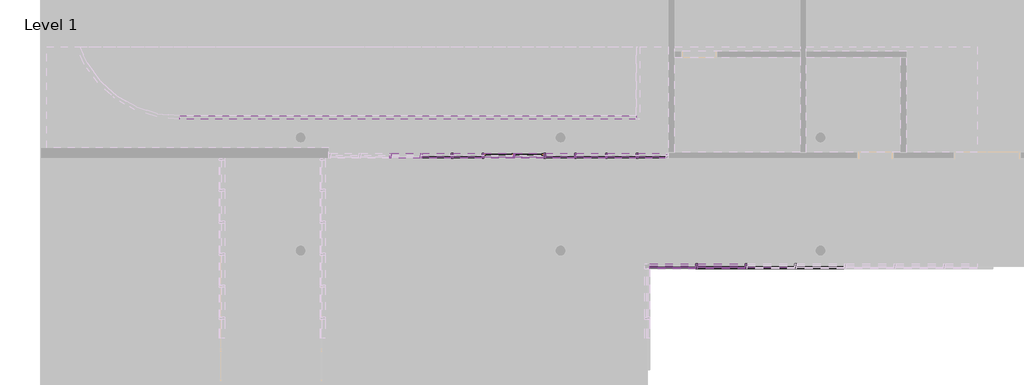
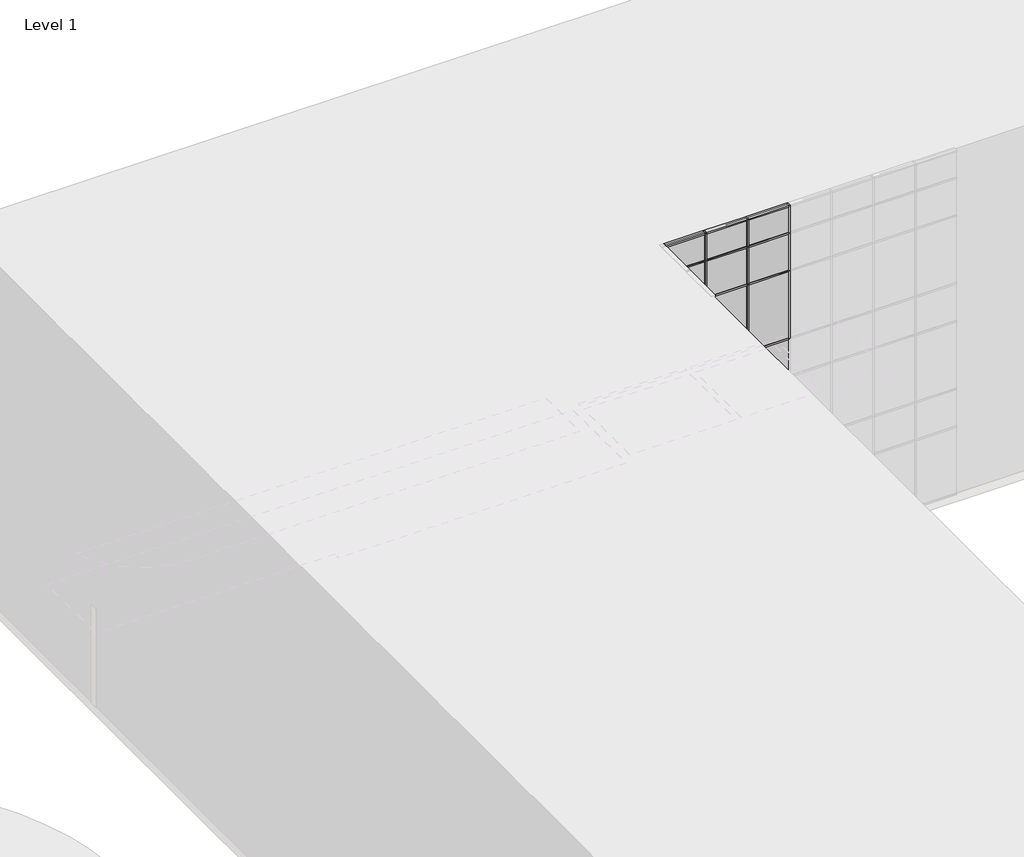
# One storey, part 14 of 27: 91 members, 34 plates, 1 door, 1 wall.
"""IFC4 building model written with IfcOpenShell, lengths in millimetres."""

from ifc_helpers import new_model, si_unit, frame, origin, place, context, project, spatial, polyline, outline, extrude, transform, mapped, element, save
from components import m_door_curtain_wall_double_storefront_m_door_curtain_wall_1244dbcd, rectangular_mullion_50mm_x_150mm_13593f2b, rectangular_mullion_50mm_x_150mm_0e57614d, rectangular_mullion_50mm_x_150mm_d8a63713, rectangular_mullion_50mm_x_150mm_a5e1a8f4, rectangular_mullion_50mm_x_150mm_caa46ae3, rectangular_mullion_50mm_x_150mm_228869d4, rectangular_mullion_50mm_x_150mm_eff96389, rectangular_mullion_50mm_x_150mm_a28728bf, rectangular_mullion_50mm_x_150mm_1cdaa0f1, rectangular_mullion_50mm_x_150mm_5a36e067, rectangular_mullion_50mm_x_150mm_73e7bd4c, rectangular_mullion_50mm_x_150mm_4d4922e7, rectangular_mullion_50mm_x_150mm_da00b109, rectangular_mullion_50mm_x_150mm_bbc1c4ea, rectangular_mullion_50mm_x_150mm_36202a7c, rectangular_mullion_50mm_x_150mm_84717ec5, system_panel_glazed_dff54dbd, system_panel_glazed_4aef0c34, system_panel_glazed_3f9df8c7, system_panel_glazed_45ebec01, system_panel_glazed_6032f2be, system_panel_glazed_0db3b356, system_panel_glazed_cd6fe77c, system_panel_glazed_231014a1, system_panel_solid_c5c66014, system_panel_solid_87c6c2f1, system_panel_solid_b23a9ee6, system_panel_solid_e0f9033a

model = new_model("IFC4")

# Units and contexts
model_context = context("Model", 3, world=origin())
ifc_project = project(units=[si_unit("LENGTHUNIT", "METRE", prefix="MILLI")], contexts=[model_context])

# Site, building, storey
site = spatial("IfcSite", under=ifc_project)
building = spatial("IfcBuilding", under=site)
storey = spatial("IfcBuildingStorey", under=building, Name="Level 1", Elevation=0.0)

# Door
placement = place(None, origin())
m_door_curtain_wall_double_storefront_m_door_curtain_wall_shape = m_door_curtain_wall_double_storefront_m_door_curtain_wall_1244dbcd(model_context)
element("IfcDoor", 1, ObjectType="M_Door-Curtain-Wall-Double-Storefront : M_Door-Curtain-Wall-Double-Storefront", at=placement, inside=storey, context=model_context, shape_type="MappedRepresentation", body=[
    mapped(m_door_curtain_wall_double_storefront_m_door_curtain_wall_shape, transform((3603.7102833, 22595.5799804, 0.0), x_axis=(-1.0, 0.0, 0.0), y_axis=(0.0, -1.0, 0.0), z_axis=(0.0, 0.0, 1.0))),
])

# Members
rectangular_mullion_50mm_x_150mm_shape = rectangular_mullion_50mm_x_150mm_13593f2b(model_context)
element("IfcMember", 2, ObjectType="Rectangular Mullion : 50mm x 150mm", at=placement, inside=storey, context=model_context, shape_type="MappedRepresentation", body=[
    mapped(rectangular_mullion_50mm_x_150mm_shape, transform((7997.5010724, 22595.5799804, 0.0), x_axis=(0.0, 0.0, -1.0), y_axis=(0.0, 1.0, 0.0), z_axis=(1.0, 0.0, 0.0))),
])
element("IfcMember", 3, ObjectType="Rectangular Mullion : 50mm x 150mm", at=placement, inside=storey, context=model_context, shape_type="MappedRepresentation", body=[
    mapped(rectangular_mullion_50mm_x_150mm_shape, transform((7183.7429143, 22595.5799804, 3550.0), x_axis=(0.0, 0.0, 1.0), y_axis=(0.0, 1.0, 0.0), z_axis=(-1.0, 0.0, 0.0))),
])
rectangular_mullion_50mm_x_150mm_2_shape = rectangular_mullion_50mm_x_150mm_0e57614d(model_context)
element("IfcMember", 4, ObjectType="Rectangular Mullion : 50mm x 150mm", at=placement, inside=storey, context=model_context, shape_type="MappedRepresentation", body=[
    mapped(rectangular_mullion_50mm_x_150mm_2_shape, transform((6294.9847566, 22595.5799804, 3550.0), x_axis=(0.0, 0.0, 1.0), y_axis=(0.0, 1.0, 0.0), z_axis=(-1.0, 0.0, 0.0))),
])
element("IfcMember", 5, ObjectType="Rectangular Mullion : 50mm x 150mm", at=placement, inside=storey, context=model_context, shape_type="MappedRepresentation", body=[
    mapped(rectangular_mullion_50mm_x_150mm_2_shape, transform((5406.2265988, 22595.5799804, 3550.0), x_axis=(0.0, 0.0, 1.0), y_axis=(0.0, 1.0, 0.0), z_axis=(-1.0, 0.0, 0.0))),
])
element("IfcMember", 6, ObjectType="Rectangular Mullion : 50mm x 150mm", at=placement, inside=storey, context=model_context, shape_type="MappedRepresentation", body=[
    mapped(rectangular_mullion_50mm_x_150mm_2_shape, transform((4517.4684411, 22595.5799804, 3550.0), x_axis=(0.0, 0.0, 1.0), y_axis=(0.0, 1.0, 0.0), z_axis=(-1.0, 0.0, 0.0))),
])
element("IfcMember", 7, ObjectType="Rectangular Mullion : 50mm x 150mm", at=placement, inside=storey, context=model_context, shape_type="MappedRepresentation", body=[
    mapped(rectangular_mullion_50mm_x_150mm_2_shape, transform((3628.7102833, 22595.5799804, 3550.0), x_axis=(0.0, 0.0, 1.0), y_axis=(0.0, 1.0, 0.0), z_axis=(-1.0, 0.0, 0.0))),
])
element("IfcMember", 8, ObjectType="Rectangular Mullion : 50mm x 150mm", at=placement, inside=storey, context=model_context, shape_type="MappedRepresentation", body=[
    mapped(rectangular_mullion_50mm_x_150mm_2_shape, transform((2739.9521255, 22595.5799804, 3550.0), x_axis=(0.0, 0.0, 1.0), y_axis=(0.0, 1.0, 0.0), z_axis=(-1.0, 0.0, 0.0))),
])
element("IfcMember", 9, ObjectType="Rectangular Mullion : 50mm x 150mm", at=placement, inside=storey, context=model_context, shape_type="MappedRepresentation", body=[
    mapped(rectangular_mullion_50mm_x_150mm_2_shape, transform((1851.1939678, 22595.5799804, 3550.0), x_axis=(0.0, 0.0, 1.0), y_axis=(0.0, 1.0, 0.0), z_axis=(-1.0, 0.0, 0.0))),
])
element("IfcMember", 10, ObjectType="Rectangular Mullion : 50mm x 150mm", at=placement, inside=storey, context=model_context, shape_type="MappedRepresentation", body=[
    mapped(rectangular_mullion_50mm_x_150mm_2_shape, transform((7133.7429143, 22595.5799804, 0.0), x_axis=(0.0, 0.0, -1.0), y_axis=(0.0, 1.0, 0.0), z_axis=(1.0, 0.0, 0.0))),
])
element("IfcMember", 11, ObjectType="Rectangular Mullion : 50mm x 150mm", at=placement, inside=storey, context=model_context, shape_type="MappedRepresentation", body=[
    mapped(rectangular_mullion_50mm_x_150mm_2_shape, transform((6244.9847566, 22595.5799804, 0.0), x_axis=(0.0, 0.0, -1.0), y_axis=(0.0, 1.0, 0.0), z_axis=(1.0, 0.0, 0.0))),
])
element("IfcMember", 12, ObjectType="Rectangular Mullion : 50mm x 150mm", at=placement, inside=storey, context=model_context, shape_type="MappedRepresentation", body=[
    mapped(rectangular_mullion_50mm_x_150mm_2_shape, transform((5356.2265988, 22595.5799804, 0.0), x_axis=(0.0, 0.0, -1.0), y_axis=(0.0, 1.0, 0.0), z_axis=(1.0, 0.0, 0.0))),
])
element("IfcMember", 13, ObjectType="Rectangular Mullion : 50mm x 150mm", at=placement, inside=storey, context=model_context, shape_type="MappedRepresentation", body=[
    mapped(rectangular_mullion_50mm_x_150mm_2_shape, transform((2689.9521255, 22595.5799804, 0.0), x_axis=(0.0, 0.0, -1.0), y_axis=(0.0, 1.0, 0.0), z_axis=(1.0, 0.0, 0.0))),
])
element("IfcMember", 14, ObjectType="Rectangular Mullion : 50mm x 150mm", at=placement, inside=storey, context=model_context, shape_type="MappedRepresentation", body=[
    mapped(rectangular_mullion_50mm_x_150mm_2_shape, transform((1801.1939678, 22595.5799804, 0.0), x_axis=(0.0, 0.0, -1.0), y_axis=(0.0, 1.0, 0.0), z_axis=(1.0, 0.0, 0.0))),
])
rectangular_mullion_50mm_x_150mm_3_shape = rectangular_mullion_50mm_x_150mm_d8a63713(model_context)
element("IfcMember", 15, ObjectType="Rectangular Mullion : 50mm x 150mm", at=placement, inside=storey, context=model_context, shape_type="MappedRepresentation", body=[
    mapped(rectangular_mullion_50mm_x_150mm_3_shape, transform((7158.7429143, 22595.5799804, 0.0), x_axis=(-1.0, 0.0, 0.0), y_axis=(0.0, 1.0, 0.0), z_axis=(0.0, 0.0, -1.0))),
])
element("IfcMember", 16, ObjectType="Rectangular Mullion : 50mm x 150mm", at=placement, inside=storey, context=model_context, shape_type="MappedRepresentation", body=[
    mapped(rectangular_mullion_50mm_x_150mm_3_shape, transform((6269.9847566, 22595.5799804, 0.0), x_axis=(-1.0, 0.0, 0.0), y_axis=(0.0, 1.0, 0.0), z_axis=(0.0, 0.0, -1.0))),
])
element("IfcMember", 17, ObjectType="Rectangular Mullion : 50mm x 150mm", at=placement, inside=storey, context=model_context, shape_type="MappedRepresentation", body=[
    mapped(rectangular_mullion_50mm_x_150mm_3_shape, transform((5381.2265988, 22595.5799804, 0.0), x_axis=(-1.0, 0.0, 0.0), y_axis=(0.0, 1.0, 0.0), z_axis=(0.0, 0.0, -1.0))),
])
element("IfcMember", 18, ObjectType="Rectangular Mullion : 50mm x 150mm", at=placement, inside=storey, context=model_context, shape_type="MappedRepresentation", body=[
    mapped(rectangular_mullion_50mm_x_150mm_3_shape, transform((4492.4684411, 22595.5799804, 0.0), x_axis=(-1.0, 0.0, 0.0), y_axis=(0.0, 1.0, 0.0), z_axis=(0.0, 0.0, -1.0))),
])
element("IfcMember", 19, ObjectType="Rectangular Mullion : 50mm x 150mm", at=placement, inside=storey, context=model_context, shape_type="MappedRepresentation", body=[
    mapped(rectangular_mullion_50mm_x_150mm_3_shape, transform((2714.9521255, 22595.5799804, 0.0), x_axis=(-1.0, 0.0, 0.0), y_axis=(0.0, 1.0, 0.0), z_axis=(0.0, 0.0, -1.0))),
])
element("IfcMember", 20, ObjectType="Rectangular Mullion : 50mm x 150mm", at=placement, inside=storey, context=model_context, shape_type="MappedRepresentation", body=[
    mapped(rectangular_mullion_50mm_x_150mm_3_shape, transform((1826.1939678, 22595.5799804, 0.0), x_axis=(-1.0, 0.0, 0.0), y_axis=(0.0, 1.0, 0.0), z_axis=(0.0, 0.0, -1.0))),
])
rectangular_mullion_50mm_x_150mm_4_shape = rectangular_mullion_50mm_x_150mm_a5e1a8f4(model_context)
element("IfcMember", 21, ObjectType="Rectangular Mullion : 50mm x 150mm", at=placement, inside=storey, context=model_context, shape_type="MappedRepresentation", body=[
    mapped(rectangular_mullion_50mm_x_150mm_4_shape, transform((7183.7429143, 22595.5799804, 2235.0), x_axis=(0.0, 0.0, 1.0), y_axis=(0.0, 1.0, 0.0), z_axis=(-1.0, 0.0, 0.0))),
])
element("IfcMember", 22, ObjectType="Rectangular Mullion : 50mm x 150mm", at=placement, inside=storey, context=model_context, shape_type="MappedRepresentation", body=[
    mapped(rectangular_mullion_50mm_x_150mm_4_shape, transform((7183.7429143, 22595.5799804, 2135.0), x_axis=(0.0, 0.0, 1.0), y_axis=(0.0, 1.0, 0.0), z_axis=(-1.0, 0.0, 0.0))),
])
rectangular_mullion_50mm_x_150mm_5_shape = rectangular_mullion_50mm_x_150mm_caa46ae3(model_context)
element("IfcMember", 23, ObjectType="Rectangular Mullion : 50mm x 150mm", at=placement, inside=storey, context=model_context, shape_type="MappedRepresentation", body=[
    mapped(rectangular_mullion_50mm_x_150mm_5_shape, transform((6294.9847566, 22595.5799804, 2235.0), x_axis=(0.0, 0.0, 1.0), y_axis=(0.0, 1.0, 0.0), z_axis=(-1.0, 0.0, 0.0))),
])
element("IfcMember", 24, ObjectType="Rectangular Mullion : 50mm x 150mm", at=placement, inside=storey, context=model_context, shape_type="MappedRepresentation", body=[
    mapped(rectangular_mullion_50mm_x_150mm_5_shape, transform((5406.2265988, 22595.5799804, 2235.0), x_axis=(0.0, 0.0, 1.0), y_axis=(0.0, 1.0, 0.0), z_axis=(-1.0, 0.0, 0.0))),
])
element("IfcMember", 25, ObjectType="Rectangular Mullion : 50mm x 150mm", at=placement, inside=storey, context=model_context, shape_type="MappedRepresentation", body=[
    mapped(rectangular_mullion_50mm_x_150mm_5_shape, transform((4517.4684411, 22595.5799804, 2235.0), x_axis=(0.0, 0.0, 1.0), y_axis=(0.0, 1.0, 0.0), z_axis=(-1.0, 0.0, 0.0))),
])
element("IfcMember", 26, ObjectType="Rectangular Mullion : 50mm x 150mm", at=placement, inside=storey, context=model_context, shape_type="MappedRepresentation", body=[
    mapped(rectangular_mullion_50mm_x_150mm_5_shape, transform((1851.1939678, 22595.5799804, 2235.0), x_axis=(0.0, 0.0, 1.0), y_axis=(0.0, 1.0, 0.0), z_axis=(-1.0, 0.0, 0.0))),
])
element("IfcMember", 27, ObjectType="Rectangular Mullion : 50mm x 150mm", at=placement, inside=storey, context=model_context, shape_type="MappedRepresentation", body=[
    mapped(rectangular_mullion_50mm_x_150mm_5_shape, transform((6294.9847566, 22595.5799804, 2135.0), x_axis=(0.0, 0.0, 1.0), y_axis=(0.0, 1.0, 0.0), z_axis=(-1.0, 0.0, 0.0))),
])
element("IfcMember", 28, ObjectType="Rectangular Mullion : 50mm x 150mm", at=placement, inside=storey, context=model_context, shape_type="MappedRepresentation", body=[
    mapped(rectangular_mullion_50mm_x_150mm_5_shape, transform((5406.2265988, 22595.5799804, 2135.0), x_axis=(0.0, 0.0, 1.0), y_axis=(0.0, 1.0, 0.0), z_axis=(-1.0, 0.0, 0.0))),
])
element("IfcMember", 29, ObjectType="Rectangular Mullion : 50mm x 150mm", at=placement, inside=storey, context=model_context, shape_type="MappedRepresentation", body=[
    mapped(rectangular_mullion_50mm_x_150mm_5_shape, transform((4517.4684411, 22595.5799804, 2135.0), x_axis=(0.0, 0.0, 1.0), y_axis=(0.0, 1.0, 0.0), z_axis=(-1.0, 0.0, 0.0))),
])
element("IfcMember", 30, ObjectType="Rectangular Mullion : 50mm x 150mm", at=placement, inside=storey, context=model_context, shape_type="MappedRepresentation", body=[
    mapped(rectangular_mullion_50mm_x_150mm_5_shape, transform((3628.7102833, 22595.5799804, 2135.0), x_axis=(0.0, 0.0, 1.0), y_axis=(0.0, 1.0, 0.0), z_axis=(-1.0, 0.0, 0.0))),
])
element("IfcMember", 31, ObjectType="Rectangular Mullion : 50mm x 150mm", at=placement, inside=storey, context=model_context, shape_type="MappedRepresentation", body=[
    mapped(rectangular_mullion_50mm_x_150mm_5_shape, transform((2739.9521255, 22595.5799804, 2135.0), x_axis=(0.0, 0.0, 1.0), y_axis=(0.0, 1.0, 0.0), z_axis=(-1.0, 0.0, 0.0))),
])
element("IfcMember", 32, ObjectType="Rectangular Mullion : 50mm x 150mm", at=placement, inside=storey, context=model_context, shape_type="MappedRepresentation", body=[
    mapped(rectangular_mullion_50mm_x_150mm_5_shape, transform((1851.1939678, 22595.5799804, 2135.0), x_axis=(0.0, 0.0, 1.0), y_axis=(0.0, 1.0, 0.0), z_axis=(-1.0, 0.0, 0.0))),
])
element("IfcMember", 33, ObjectType="Rectangular Mullion : 50mm x 150mm", at=placement, inside=storey, context=model_context, shape_type="MappedRepresentation", body=[
    mapped(rectangular_mullion_50mm_x_150mm_5_shape, transform((962.43581, 22595.5799804, 2135.0), x_axis=(0.0, 0.0, 1.0), y_axis=(0.0, 1.0, 0.0), z_axis=(-1.0, 0.0, 0.0))),
])
element("IfcMember", 34, ObjectType="Rectangular Mullion : 50mm x 150mm", at=placement, inside=storey, context=model_context, shape_type="MappedRepresentation", body=[
    mapped(rectangular_mullion_50mm_x_150mm_5_shape, transform((73.6776523, 22595.5799804, 2135.0), x_axis=(0.0, 0.0, 1.0), y_axis=(0.0, 1.0, 0.0), z_axis=(-1.0, 0.0, 0.0))),
])
rectangular_mullion_50mm_x_150mm_6_shape = rectangular_mullion_50mm_x_150mm_228869d4(model_context)
element("IfcMember", 35, ObjectType="Rectangular Mullion : 50mm x 150mm", at=placement, inside=storey, context=model_context, shape_type="MappedRepresentation", body=[
    mapped(rectangular_mullion_50mm_x_150mm_6_shape, transform((3603.7102833, 22595.5799804, 2235.0), x_axis=(0.0, 0.0, 1.0), y_axis=(0.0, 1.0, 0.0), z_axis=(-1.0, 0.0, 0.0))),
])
element("IfcMember", 36, ObjectType="Rectangular Mullion : 50mm x 150mm", at=placement, inside=storey, context=model_context, shape_type="MappedRepresentation", body=[
    mapped(rectangular_mullion_50mm_x_150mm_6_shape, transform((2739.9521255, 22595.5799804, 2235.0), x_axis=(0.0, 0.0, 1.0), y_axis=(0.0, 1.0, 0.0), z_axis=(-1.0, 0.0, 0.0))),
])
rectangular_mullion_50mm_x_150mm_7_shape = rectangular_mullion_50mm_x_150mm_eff96389(model_context)
element("IfcMember", 37, ObjectType="Rectangular Mullion : 50mm x 150mm", at=placement, inside=storey, context=model_context, shape_type="MappedRepresentation", body=[
    mapped(rectangular_mullion_50mm_x_150mm_7_shape, transform((7158.7429143, 22595.5799804, 2235.0), x_axis=(-1.0, 0.0, 0.0), y_axis=(0.0, 1.0, 0.0), z_axis=(0.0, 0.0, -1.0))),
])
element("IfcMember", 38, ObjectType="Rectangular Mullion : 50mm x 150mm", at=placement, inside=storey, context=model_context, shape_type="MappedRepresentation", body=[
    mapped(rectangular_mullion_50mm_x_150mm_7_shape, transform((6269.9847566, 22595.5799804, 2235.0), x_axis=(-1.0, 0.0, 0.0), y_axis=(0.0, 1.0, 0.0), z_axis=(0.0, 0.0, -1.0))),
])
element("IfcMember", 39, ObjectType="Rectangular Mullion : 50mm x 150mm", at=placement, inside=storey, context=model_context, shape_type="MappedRepresentation", body=[
    mapped(rectangular_mullion_50mm_x_150mm_7_shape, transform((5381.2265988, 22595.5799804, 2235.0), x_axis=(-1.0, 0.0, 0.0), y_axis=(0.0, 1.0, 0.0), z_axis=(0.0, 0.0, -1.0))),
])
element("IfcMember", 40, ObjectType="Rectangular Mullion : 50mm x 150mm", at=placement, inside=storey, context=model_context, shape_type="MappedRepresentation", body=[
    mapped(rectangular_mullion_50mm_x_150mm_7_shape, transform((4492.4684411, 22595.5799804, 2235.0), x_axis=(-1.0, 0.0, 0.0), y_axis=(0.0, 1.0, 0.0), z_axis=(0.0, 0.0, -1.0))),
])
element("IfcMember", 41, ObjectType="Rectangular Mullion : 50mm x 150mm", at=placement, inside=storey, context=model_context, shape_type="MappedRepresentation", body=[
    mapped(rectangular_mullion_50mm_x_150mm_7_shape, transform((2714.9521255, 22595.5799804, 2235.0), x_axis=(-1.0, 0.0, 0.0), y_axis=(0.0, 1.0, 0.0), z_axis=(0.0, 0.0, -1.0))),
])
element("IfcMember", 42, ObjectType="Rectangular Mullion : 50mm x 150mm", at=placement, inside=storey, context=model_context, shape_type="MappedRepresentation", body=[
    mapped(rectangular_mullion_50mm_x_150mm_7_shape, transform((1826.1939678, 22595.5799804, 2235.0), x_axis=(-1.0, 0.0, 0.0), y_axis=(0.0, 1.0, 0.0), z_axis=(0.0, 0.0, -1.0))),
])
element("IfcMember", 43, ObjectType="Rectangular Mullion : 50mm x 150mm", at=placement, inside=storey, context=model_context, shape_type="MappedRepresentation", body=[
    mapped(rectangular_mullion_50mm_x_150mm_7_shape, transform((937.43581, 22595.5799804, 2235.0), x_axis=(-1.0, 0.0, 0.0), y_axis=(0.0, 1.0, 0.0), z_axis=(0.0, 0.0, -1.0))),
])
element("IfcMember", 44, ObjectType="Rectangular Mullion : 50mm x 150mm", at=placement, inside=storey, context=model_context, shape_type="MappedRepresentation", body=[
    mapped(rectangular_mullion_50mm_x_150mm_7_shape, transform((48.6776523, 22595.5799804, 2235.0), x_axis=(-1.0, 0.0, 0.0), y_axis=(0.0, 1.0, 0.0), z_axis=(0.0, 0.0, -1.0))),
])
rectangular_mullion_50mm_x_150mm_8_shape = rectangular_mullion_50mm_x_150mm_a28728bf(model_context)
element("IfcMember", 45, ObjectType="Rectangular Mullion : 50mm x 150mm", at=placement, inside=storey, context=model_context, shape_type="MappedRepresentation", body=[
    mapped(rectangular_mullion_50mm_x_150mm_8_shape, transform((7158.7429143, 22595.5799804, 2135.0), x_axis=(-1.0, 0.0, 0.0), y_axis=(0.0, 1.0, 0.0), z_axis=(0.0, 0.0, -1.0))),
])
element("IfcMember", 46, ObjectType="Rectangular Mullion : 50mm x 150mm", at=placement, inside=storey, context=model_context, shape_type="MappedRepresentation", body=[
    mapped(rectangular_mullion_50mm_x_150mm_8_shape, transform((6269.9847566, 22595.5799804, 2135.0), x_axis=(-1.0, 0.0, 0.0), y_axis=(0.0, 1.0, 0.0), z_axis=(0.0, 0.0, -1.0))),
])
element("IfcMember", 47, ObjectType="Rectangular Mullion : 50mm x 150mm", at=placement, inside=storey, context=model_context, shape_type="MappedRepresentation", body=[
    mapped(rectangular_mullion_50mm_x_150mm_8_shape, transform((5381.2265988, 22595.5799804, 2135.0), x_axis=(-1.0, 0.0, 0.0), y_axis=(0.0, 1.0, 0.0), z_axis=(0.0, 0.0, -1.0))),
])
element("IfcMember", 48, ObjectType="Rectangular Mullion : 50mm x 150mm", at=placement, inside=storey, context=model_context, shape_type="MappedRepresentation", body=[
    mapped(rectangular_mullion_50mm_x_150mm_8_shape, transform((4492.4684411, 22595.5799804, 2135.0), x_axis=(-1.0, 0.0, 0.0), y_axis=(0.0, 1.0, 0.0), z_axis=(0.0, 0.0, -1.0))),
])
element("IfcMember", 49, ObjectType="Rectangular Mullion : 50mm x 150mm", at=placement, inside=storey, context=model_context, shape_type="MappedRepresentation", body=[
    mapped(rectangular_mullion_50mm_x_150mm_8_shape, transform((2714.9521255, 22595.5799804, 2135.0), x_axis=(-1.0, 0.0, 0.0), y_axis=(0.0, 1.0, 0.0), z_axis=(0.0, 0.0, -1.0))),
])
element("IfcMember", 50, ObjectType="Rectangular Mullion : 50mm x 150mm", at=placement, inside=storey, context=model_context, shape_type="MappedRepresentation", body=[
    mapped(rectangular_mullion_50mm_x_150mm_8_shape, transform((1826.1939678, 22595.5799804, 2135.0), x_axis=(-1.0, 0.0, 0.0), y_axis=(0.0, 1.0, 0.0), z_axis=(0.0, 0.0, -1.0))),
])
rectangular_mullion_50mm_x_150mm_9_shape = rectangular_mullion_50mm_x_150mm_1cdaa0f1(model_context)
element("IfcMember", 51, ObjectType="Rectangular Mullion : 50mm x 150mm", at=placement, inside=storey, context=model_context, shape_type="MappedRepresentation", body=[
    mapped(rectangular_mullion_50mm_x_150mm_9_shape, transform((3603.7102833, 22595.5799804, 2110.0), x_axis=(-1.0, 0.0, 0.0), y_axis=(0.0, 1.0, 0.0), z_axis=(0.0, 0.0, -1.0))),
])
rectangular_mullion_50mm_x_150mm_10_shape = rectangular_mullion_50mm_x_150mm_5a36e067(model_context)
element("IfcMember", 52, ObjectType="Rectangular Mullion : 50mm x 150mm", at=placement, inside=storey, context=model_context, shape_type="MappedRepresentation", body=[
    mapped(rectangular_mullion_50mm_x_150mm_10_shape, transform((10274.5580493, 19414.8392059, 12400.0), x_axis=(0.0, 0.0, 1.0), y_axis=(0.0, -1.0, 0.0), z_axis=(1.0, 0.0, 0.0))),
])
element("IfcMember", 53, ObjectType="Rectangular Mullion : 50mm x 150mm", at=placement, inside=storey, context=model_context, shape_type="MappedRepresentation", body=[
    mapped(rectangular_mullion_50mm_x_150mm_10_shape, transform((11700.5865377, 19414.8392059, 12400.0), x_axis=(0.0, 0.0, 1.0), y_axis=(0.0, -1.0, 0.0), z_axis=(1.0, 0.0, 0.0))),
])
element("IfcMember", 54, ObjectType="Rectangular Mullion : 50mm x 150mm", at=placement, inside=storey, context=model_context, shape_type="MappedRepresentation", body=[
    mapped(rectangular_mullion_50mm_x_150mm_10_shape, transform((8898.529561, 19414.8392059, 0.0), x_axis=(0.0, 0.0, -1.0), y_axis=(0.0, -1.0, 0.0), z_axis=(-1.0, 0.0, 0.0))),
])
element("IfcMember", 55, ObjectType="Rectangular Mullion : 50mm x 150mm", at=placement, inside=storey, context=model_context, shape_type="MappedRepresentation", body=[
    mapped(rectangular_mullion_50mm_x_150mm_10_shape, transform((10324.5580493, 19414.8392059, 0.0), x_axis=(0.0, 0.0, -1.0), y_axis=(0.0, -1.0, 0.0), z_axis=(-1.0, 0.0, 0.0))),
])
element("IfcMember", 56, ObjectType="Rectangular Mullion : 50mm x 150mm", at=placement, inside=storey, context=model_context, shape_type="MappedRepresentation", body=[
    mapped(rectangular_mullion_50mm_x_150mm_10_shape, transform((11750.5865377, 19414.8392059, 0.0), x_axis=(0.0, 0.0, -1.0), y_axis=(0.0, -1.0, 0.0), z_axis=(-1.0, 0.0, 0.0))),
])
rectangular_mullion_50mm_x_150mm_11_shape = rectangular_mullion_50mm_x_150mm_73e7bd4c(model_context)
element("IfcMember", 57, ObjectType="Rectangular Mullion : 50mm x 150mm", at=placement, inside=storey, context=model_context, shape_type="MappedRepresentation", body=[
    mapped(rectangular_mullion_50mm_x_150mm_11_shape, transform((10274.5580493, 19414.8392059, 3800.0), x_axis=(0.0, 0.0, 1.0), y_axis=(0.0, -1.0, 0.0), z_axis=(1.0, 0.0, 0.0))),
])
element("IfcMember", 58, ObjectType="Rectangular Mullion : 50mm x 150mm", at=placement, inside=storey, context=model_context, shape_type="MappedRepresentation", body=[
    mapped(rectangular_mullion_50mm_x_150mm_11_shape, transform((11700.5865377, 19414.8392059, 3800.0), x_axis=(0.0, 0.0, 1.0), y_axis=(0.0, -1.0, 0.0), z_axis=(1.0, 0.0, 0.0))),
])
element("IfcMember", 59, ObjectType="Rectangular Mullion : 50mm x 150mm", at=placement, inside=storey, context=model_context, shape_type="MappedRepresentation", body=[
    mapped(rectangular_mullion_50mm_x_150mm_11_shape, transform((10274.5580493, 19414.8392059, 7600.0), x_axis=(0.0, 0.0, 1.0), y_axis=(0.0, -1.0, 0.0), z_axis=(1.0, 0.0, 0.0))),
])
element("IfcMember", 60, ObjectType="Rectangular Mullion : 50mm x 150mm", at=placement, inside=storey, context=model_context, shape_type="MappedRepresentation", body=[
    mapped(rectangular_mullion_50mm_x_150mm_11_shape, transform((11700.5865377, 19414.8392059, 7600.0), x_axis=(0.0, 0.0, 1.0), y_axis=(0.0, -1.0, 0.0), z_axis=(1.0, 0.0, 0.0))),
])
element("IfcMember", 61, ObjectType="Rectangular Mullion : 50mm x 150mm", at=placement, inside=storey, context=model_context, shape_type="MappedRepresentation", body=[
    mapped(rectangular_mullion_50mm_x_150mm_11_shape, transform((10274.5580493, 19414.8392059, 11400.0), x_axis=(0.0, 0.0, 1.0), y_axis=(0.0, -1.0, 0.0), z_axis=(1.0, 0.0, 0.0))),
])
element("IfcMember", 62, ObjectType="Rectangular Mullion : 50mm x 150mm", at=placement, inside=storey, context=model_context, shape_type="MappedRepresentation", body=[
    mapped(rectangular_mullion_50mm_x_150mm_11_shape, transform((11700.5865377, 19414.8392059, 11400.0), x_axis=(0.0, 0.0, 1.0), y_axis=(0.0, -1.0, 0.0), z_axis=(1.0, 0.0, 0.0))),
])
element("IfcMember", 63, ObjectType="Rectangular Mullion : 50mm x 150mm", at=placement, inside=storey, context=model_context, shape_type="MappedRepresentation", body=[
    mapped(rectangular_mullion_50mm_x_150mm_11_shape, transform((10274.5580493, 19414.8392059, 10040.0), x_axis=(0.0, 0.0, 1.0), y_axis=(0.0, -1.0, 0.0), z_axis=(1.0, 0.0, 0.0))),
])
element("IfcMember", 64, ObjectType="Rectangular Mullion : 50mm x 150mm", at=placement, inside=storey, context=model_context, shape_type="MappedRepresentation", body=[
    mapped(rectangular_mullion_50mm_x_150mm_11_shape, transform((11700.5865377, 19414.8392059, 10040.0), x_axis=(0.0, 0.0, 1.0), y_axis=(0.0, -1.0, 0.0), z_axis=(1.0, 0.0, 0.0))),
])
element("IfcMember", 65, ObjectType="Rectangular Mullion : 50mm x 150mm", at=placement, inside=storey, context=model_context, shape_type="MappedRepresentation", body=[
    mapped(rectangular_mullion_50mm_x_150mm_11_shape, transform((10274.5580493, 19414.8392059, 6240.0), x_axis=(0.0, 0.0, 1.0), y_axis=(0.0, -1.0, 0.0), z_axis=(1.0, 0.0, 0.0))),
])
element("IfcMember", 66, ObjectType="Rectangular Mullion : 50mm x 150mm", at=placement, inside=storey, context=model_context, shape_type="MappedRepresentation", body=[
    mapped(rectangular_mullion_50mm_x_150mm_11_shape, transform((10274.5580493, 19414.8392059, 2440.0), x_axis=(0.0, 0.0, 1.0), y_axis=(0.0, -1.0, 0.0), z_axis=(1.0, 0.0, 0.0))),
])
rectangular_mullion_50mm_x_150mm_12_shape = rectangular_mullion_50mm_x_150mm_4d4922e7(model_context)
element("IfcMember", 67, ObjectType="Rectangular Mullion : 50mm x 150mm", at=placement, inside=storey, context=model_context, shape_type="MappedRepresentation", body=[
    mapped(rectangular_mullion_50mm_x_150mm_12_shape, transform((8848.529561, 19414.8392059, 12400.0), x_axis=(0.0, 0.0, 1.0), y_axis=(0.0, -1.0, 0.0), z_axis=(1.0, 0.0, 0.0))),
])
rectangular_mullion_50mm_x_150mm_13_shape = rectangular_mullion_50mm_x_150mm_da00b109(model_context)
element("IfcMember", 68, ObjectType="Rectangular Mullion : 50mm x 150mm", at=placement, inside=storey, context=model_context, shape_type="MappedRepresentation", body=[
    mapped(rectangular_mullion_50mm_x_150mm_13_shape, transform((8848.529561, 19414.8392059, 3800.0), x_axis=(0.0, 0.0, 1.0), y_axis=(0.0, -1.0, 0.0), z_axis=(1.0, 0.0, 0.0))),
])
element("IfcMember", 69, ObjectType="Rectangular Mullion : 50mm x 150mm", at=placement, inside=storey, context=model_context, shape_type="MappedRepresentation", body=[
    mapped(rectangular_mullion_50mm_x_150mm_13_shape, transform((8848.529561, 19414.8392059, 7600.0), x_axis=(0.0, 0.0, 1.0), y_axis=(0.0, -1.0, 0.0), z_axis=(1.0, 0.0, 0.0))),
])
element("IfcMember", 70, ObjectType="Rectangular Mullion : 50mm x 150mm", at=placement, inside=storey, context=model_context, shape_type="MappedRepresentation", body=[
    mapped(rectangular_mullion_50mm_x_150mm_13_shape, transform((8848.529561, 19414.8392059, 11400.0), x_axis=(0.0, 0.0, 1.0), y_axis=(0.0, -1.0, 0.0), z_axis=(1.0, 0.0, 0.0))),
])
element("IfcMember", 71, ObjectType="Rectangular Mullion : 50mm x 150mm", at=placement, inside=storey, context=model_context, shape_type="MappedRepresentation", body=[
    mapped(rectangular_mullion_50mm_x_150mm_13_shape, transform((8848.529561, 19414.8392059, 10040.0), x_axis=(0.0, 0.0, 1.0), y_axis=(0.0, -1.0, 0.0), z_axis=(1.0, 0.0, 0.0))),
])
element("IfcMember", 72, ObjectType="Rectangular Mullion : 50mm x 150mm", at=placement, inside=storey, context=model_context, shape_type="MappedRepresentation", body=[
    mapped(rectangular_mullion_50mm_x_150mm_13_shape, transform((8848.529561, 19414.8392059, 6240.0), x_axis=(0.0, 0.0, 1.0), y_axis=(0.0, -1.0, 0.0), z_axis=(1.0, 0.0, 0.0))),
])
element("IfcMember", 73, ObjectType="Rectangular Mullion : 50mm x 150mm", at=placement, inside=storey, context=model_context, shape_type="MappedRepresentation", body=[
    mapped(rectangular_mullion_50mm_x_150mm_13_shape, transform((8848.529561, 19414.8392059, 2440.0), x_axis=(0.0, 0.0, 1.0), y_axis=(0.0, -1.0, 0.0), z_axis=(1.0, 0.0, 0.0))),
])
rectangular_mullion_50mm_x_150mm_14_shape = rectangular_mullion_50mm_x_150mm_bbc1c4ea(model_context)
element("IfcMember", 74, ObjectType="Rectangular Mullion : 50mm x 150mm", at=placement, inside=storey, context=model_context, shape_type="MappedRepresentation", body=[
    mapped(rectangular_mullion_50mm_x_150mm_14_shape, transform((8873.529561, 19414.8392059, 11400.0), x_axis=(1.0, 0.0, 0.0), y_axis=(0.0, -1.0, 0.0), z_axis=(0.0, 0.0, -1.0))),
])
element("IfcMember", 75, ObjectType="Rectangular Mullion : 50mm x 150mm", at=placement, inside=storey, context=model_context, shape_type="MappedRepresentation", body=[
    mapped(rectangular_mullion_50mm_x_150mm_14_shape, transform((10299.5580493, 19414.8392059, 11400.0), x_axis=(1.0, 0.0, 0.0), y_axis=(0.0, -1.0, 0.0), z_axis=(0.0, 0.0, -1.0))),
])
element("IfcMember", 76, ObjectType="Rectangular Mullion : 50mm x 150mm", at=placement, inside=storey, context=model_context, shape_type="MappedRepresentation", body=[
    mapped(rectangular_mullion_50mm_x_150mm_14_shape, transform((11725.5865377, 19414.8392059, 11400.0), x_axis=(1.0, 0.0, 0.0), y_axis=(0.0, -1.0, 0.0), z_axis=(0.0, 0.0, -1.0))),
])
rectangular_mullion_50mm_x_150mm_15_shape = rectangular_mullion_50mm_x_150mm_36202a7c(model_context)
element("IfcMember", 77, ObjectType="Rectangular Mullion : 50mm x 150mm", at=placement, inside=storey, context=model_context, shape_type="MappedRepresentation", body=[
    mapped(rectangular_mullion_50mm_x_150mm_15_shape, transform((8873.529561, 19414.8392059, 0.0), x_axis=(1.0, 0.0, 0.0), y_axis=(0.0, -1.0, 0.0), z_axis=(0.0, 0.0, -1.0))),
])
element("IfcMember", 78, ObjectType="Rectangular Mullion : 50mm x 150mm", at=placement, inside=storey, context=model_context, shape_type="MappedRepresentation", body=[
    mapped(rectangular_mullion_50mm_x_150mm_15_shape, transform((10299.5580493, 19414.8392059, 0.0), x_axis=(1.0, 0.0, 0.0), y_axis=(0.0, -1.0, 0.0), z_axis=(0.0, 0.0, -1.0))),
])
element("IfcMember", 79, ObjectType="Rectangular Mullion : 50mm x 150mm", at=placement, inside=storey, context=model_context, shape_type="MappedRepresentation", body=[
    mapped(rectangular_mullion_50mm_x_150mm_15_shape, transform((11725.5865377, 19414.8392059, 0.0), x_axis=(1.0, 0.0, 0.0), y_axis=(0.0, -1.0, 0.0), z_axis=(0.0, 0.0, -1.0))),
])
rectangular_mullion_50mm_x_150mm_16_shape = rectangular_mullion_50mm_x_150mm_84717ec5(model_context)
element("IfcMember", 80, ObjectType="Rectangular Mullion : 50mm x 150mm", at=placement, inside=storey, context=model_context, shape_type="MappedRepresentation", body=[
    mapped(rectangular_mullion_50mm_x_150mm_16_shape, transform((8873.529561, 19414.8392059, 10040.0), x_axis=(1.0, 0.0, 0.0), y_axis=(0.0, -1.0, 0.0), z_axis=(0.0, 0.0, -1.0))),
])
element("IfcMember", 81, ObjectType="Rectangular Mullion : 50mm x 150mm", at=placement, inside=storey, context=model_context, shape_type="MappedRepresentation", body=[
    mapped(rectangular_mullion_50mm_x_150mm_16_shape, transform((10299.5580493, 19414.8392059, 10040.0), x_axis=(1.0, 0.0, 0.0), y_axis=(0.0, -1.0, 0.0), z_axis=(0.0, 0.0, -1.0))),
])
element("IfcMember", 82, ObjectType="Rectangular Mullion : 50mm x 150mm", at=placement, inside=storey, context=model_context, shape_type="MappedRepresentation", body=[
    mapped(rectangular_mullion_50mm_x_150mm_16_shape, transform((11725.5865377, 19414.8392059, 10040.0), x_axis=(1.0, 0.0, 0.0), y_axis=(0.0, -1.0, 0.0), z_axis=(0.0, 0.0, -1.0))),
])
element("IfcMember", 83, ObjectType="Rectangular Mullion : 50mm x 150mm", at=placement, inside=storey, context=model_context, shape_type="MappedRepresentation", body=[
    mapped(rectangular_mullion_50mm_x_150mm_16_shape, transform((8873.529561, 19414.8392059, 6240.0), x_axis=(1.0, 0.0, 0.0), y_axis=(0.0, -1.0, 0.0), z_axis=(0.0, 0.0, -1.0))),
])
element("IfcMember", 84, ObjectType="Rectangular Mullion : 50mm x 150mm", at=placement, inside=storey, context=model_context, shape_type="MappedRepresentation", body=[
    mapped(rectangular_mullion_50mm_x_150mm_16_shape, transform((10299.5580493, 19414.8392059, 6240.0), x_axis=(1.0, 0.0, 0.0), y_axis=(0.0, -1.0, 0.0), z_axis=(0.0, 0.0, -1.0))),
])
element("IfcMember", 85, ObjectType="Rectangular Mullion : 50mm x 150mm", at=placement, inside=storey, context=model_context, shape_type="MappedRepresentation", body=[
    mapped(rectangular_mullion_50mm_x_150mm_16_shape, transform((8873.529561, 19414.8392059, 2440.0), x_axis=(1.0, 0.0, 0.0), y_axis=(0.0, -1.0, 0.0), z_axis=(0.0, 0.0, -1.0))),
])
element("IfcMember", 86, ObjectType="Rectangular Mullion : 50mm x 150mm", at=placement, inside=storey, context=model_context, shape_type="MappedRepresentation", body=[
    mapped(rectangular_mullion_50mm_x_150mm_16_shape, transform((10299.5580493, 19414.8392059, 2440.0), x_axis=(1.0, 0.0, 0.0), y_axis=(0.0, -1.0, 0.0), z_axis=(0.0, 0.0, -1.0))),
])
element("IfcMember", 87, ObjectType="Rectangular Mullion : 50mm x 150mm", at=placement, inside=storey, context=model_context, shape_type="MappedRepresentation", body=[
    mapped(rectangular_mullion_50mm_x_150mm_15_shape, transform((8873.529561, 19414.8392059, 3800.0), x_axis=(1.0, 0.0, 0.0), y_axis=(0.0, -1.0, 0.0), z_axis=(0.0, 0.0, -1.0))),
])
element("IfcMember", 88, ObjectType="Rectangular Mullion : 50mm x 150mm", at=placement, inside=storey, context=model_context, shape_type="MappedRepresentation", body=[
    mapped(rectangular_mullion_50mm_x_150mm_15_shape, transform((10299.5580493, 19414.8392059, 3800.0), x_axis=(1.0, 0.0, 0.0), y_axis=(0.0, -1.0, 0.0), z_axis=(0.0, 0.0, -1.0))),
])
element("IfcMember", 89, ObjectType="Rectangular Mullion : 50mm x 150mm", at=placement, inside=storey, context=model_context, shape_type="MappedRepresentation", body=[
    mapped(rectangular_mullion_50mm_x_150mm_15_shape, transform((11725.5865377, 19414.8392059, 3800.0), x_axis=(1.0, 0.0, 0.0), y_axis=(0.0, -1.0, 0.0), z_axis=(0.0, 0.0, -1.0))),
])
element("IfcMember", 90, ObjectType="Rectangular Mullion : 50mm x 150mm", at=placement, inside=storey, context=model_context, shape_type="MappedRepresentation", body=[
    mapped(rectangular_mullion_50mm_x_150mm_15_shape, transform((8873.529561, 19414.8392059, 7600.0), x_axis=(1.0, 0.0, 0.0), y_axis=(0.0, -1.0, 0.0), z_axis=(0.0, 0.0, -1.0))),
])
element("IfcMember", 91, ObjectType="Rectangular Mullion : 50mm x 150mm", at=placement, inside=storey, context=model_context, shape_type="MappedRepresentation", body=[
    mapped(rectangular_mullion_50mm_x_150mm_15_shape, transform((10299.5580493, 19414.8392059, 7600.0), x_axis=(1.0, 0.0, 0.0), y_axis=(0.0, -1.0, 0.0), z_axis=(0.0, 0.0, -1.0))),
])
element("IfcMember", 92, ObjectType="Rectangular Mullion : 50mm x 150mm", at=placement, inside=storey, context=model_context, shape_type="MappedRepresentation", body=[
    mapped(rectangular_mullion_50mm_x_150mm_15_shape, transform((11725.5865377, 19414.8392059, 7600.0), x_axis=(1.0, 0.0, 0.0), y_axis=(0.0, -1.0, 0.0), z_axis=(0.0, 0.0, -1.0))),
])

# Plates
system_panel_glazed_shape = system_panel_glazed_dff54dbd(model_context)
element("IfcPlate", 93, ObjectType="System Panel : Glazed", at=placement, inside=storey, context=model_context, shape_type="MappedRepresentation", body=[
    mapped(system_panel_glazed_shape, transform((7590.6219933, 22595.5799804, 50.0), x_axis=(-1.0, 0.0, 0.0), y_axis=(0.0, -1.0, 0.0), z_axis=(0.0, 0.0, 1.0))),
])
system_panel_glazed_2_shape = system_panel_glazed_4aef0c34(model_context)
element("IfcPlate", 94, ObjectType="System Panel : Glazed", at=placement, inside=storey, context=model_context, shape_type="MappedRepresentation", body=[
    mapped(system_panel_glazed_2_shape, transform((6714.3638354, 22595.5799804, 50.0), x_axis=(-1.0, 0.0, 0.0), y_axis=(0.0, -1.0, 0.0), z_axis=(0.0, 0.0, 1.0))),
])
element("IfcPlate", 95, ObjectType="System Panel : Glazed", at=placement, inside=storey, context=model_context, shape_type="MappedRepresentation", body=[
    mapped(system_panel_glazed_2_shape, transform((5825.6056777, 22595.5799804, 50.0), x_axis=(-1.0, 0.0, 0.0), y_axis=(0.0, -1.0, 0.0), z_axis=(0.0, 0.0, 1.0))),
])
element("IfcPlate", 96, ObjectType="System Panel : Glazed", at=placement, inside=storey, context=model_context, shape_type="MappedRepresentation", body=[
    mapped(system_panel_glazed_2_shape, transform((4936.8475199, 22595.5799804, 50.0), x_axis=(-1.0, 0.0, 0.0), y_axis=(0.0, -1.0, 0.0), z_axis=(0.0, 0.0, 1.0))),
])
element("IfcPlate", 97, ObjectType="System Panel : Glazed", at=placement, inside=storey, context=model_context, shape_type="MappedRepresentation", body=[
    mapped(system_panel_glazed_2_shape, transform((2270.5730467, 22595.5799804, 50.0), x_axis=(-1.0, 0.0, 0.0), y_axis=(0.0, -1.0, 0.0), z_axis=(0.0, 0.0, 1.0))),
])
element("IfcPlate", 98, ObjectType="System Panel : Glazed", at=placement, inside=storey, context=model_context, shape_type="MappedRepresentation", body=[
    mapped(system_panel_glazed_2_shape, transform((1381.8148889, 22595.5799804, 50.0), x_axis=(-1.0, 0.0, 0.0), y_axis=(0.0, -1.0, 0.0), z_axis=(0.0, 0.0, 1.0))),
])
system_panel_glazed_3_shape = system_panel_glazed_3f9df8c7(model_context)
element("IfcPlate", 99, ObjectType="System Panel : Glazed", at=placement, inside=storey, context=model_context, shape_type="MappedRepresentation", body=[
    mapped(system_panel_glazed_3_shape, transform((7590.6219933, 22595.5799804, 2160.0), x_axis=(-1.0, 0.0, 0.0), y_axis=(0.0, -1.0, 0.0), z_axis=(0.0, 0.0, 1.0))),
])
system_panel_glazed_4_shape = system_panel_glazed_45ebec01(model_context)
element("IfcPlate", 100, ObjectType="System Panel : Glazed", at=placement, inside=storey, context=model_context, shape_type="MappedRepresentation", body=[
    mapped(system_panel_glazed_4_shape, transform((6714.3638354, 22595.5799804, 2160.0), x_axis=(-1.0, 0.0, 0.0), y_axis=(0.0, -1.0, 0.0), z_axis=(0.0, 0.0, 1.0))),
])
element("IfcPlate", 101, ObjectType="System Panel : Glazed", at=placement, inside=storey, context=model_context, shape_type="MappedRepresentation", body=[
    mapped(system_panel_glazed_4_shape, transform((5825.6056777, 22595.5799804, 2160.0), x_axis=(-1.0, 0.0, 0.0), y_axis=(0.0, -1.0, 0.0), z_axis=(0.0, 0.0, 1.0))),
])
element("IfcPlate", 102, ObjectType="System Panel : Glazed", at=placement, inside=storey, context=model_context, shape_type="MappedRepresentation", body=[
    mapped(system_panel_glazed_4_shape, transform((4936.8475199, 22595.5799804, 2160.0), x_axis=(-1.0, 0.0, 0.0), y_axis=(0.0, -1.0, 0.0), z_axis=(0.0, 0.0, 1.0))),
])
element("IfcPlate", 103, ObjectType="System Panel : Glazed", at=placement, inside=storey, context=model_context, shape_type="MappedRepresentation", body=[
    mapped(system_panel_glazed_4_shape, transform((4048.0893622, 22595.5799804, 2160.0), x_axis=(-1.0, 0.0, 0.0), y_axis=(0.0, -1.0, 0.0), z_axis=(0.0, 0.0, 1.0))),
])
element("IfcPlate", 104, ObjectType="System Panel : Glazed", at=placement, inside=storey, context=model_context, shape_type="MappedRepresentation", body=[
    mapped(system_panel_glazed_4_shape, transform((3159.3312044, 22595.5799804, 2160.0), x_axis=(-1.0, 0.0, 0.0), y_axis=(0.0, -1.0, 0.0), z_axis=(0.0, 0.0, 1.0))),
])
element("IfcPlate", 105, ObjectType="System Panel : Glazed", at=placement, inside=storey, context=model_context, shape_type="MappedRepresentation", body=[
    mapped(system_panel_glazed_4_shape, transform((2270.5730467, 22595.5799804, 2160.0), x_axis=(-1.0, 0.0, 0.0), y_axis=(0.0, -1.0, 0.0), z_axis=(0.0, 0.0, 1.0))),
])
element("IfcPlate", 106, ObjectType="System Panel : Glazed", at=placement, inside=storey, context=model_context, shape_type="MappedRepresentation", body=[
    mapped(system_panel_glazed_4_shape, transform((1381.8148889, 22595.5799804, 2160.0), x_axis=(-1.0, 0.0, 0.0), y_axis=(0.0, -1.0, 0.0), z_axis=(0.0, 0.0, 1.0))),
])
system_panel_glazed_5_shape = system_panel_glazed_6032f2be(model_context)
element("IfcPlate", 107, ObjectType="System Panel : Glazed", at=placement, inside=storey, context=model_context, shape_type="MappedRepresentation", body=[
    mapped(system_panel_glazed_5_shape, transform((9586.5438052, 19414.8392059, 3825.0), x_axis=(1.0, 0.0, 0.0), y_axis=(0.0, 1.0, 0.0), z_axis=(0.0, 0.0, 1.0))),
])
element("IfcPlate", 108, ObjectType="System Panel : Glazed", at=placement, inside=storey, context=model_context, shape_type="MappedRepresentation", body=[
    mapped(system_panel_glazed_5_shape, transform((11012.5722935, 19414.8392059, 3825.0), x_axis=(1.0, 0.0, 0.0), y_axis=(0.0, 1.0, 0.0), z_axis=(0.0, 0.0, 1.0))),
])
element("IfcPlate", 109, ObjectType="System Panel : Glazed", at=placement, inside=storey, context=model_context, shape_type="MappedRepresentation", body=[
    mapped(system_panel_glazed_5_shape, transform((9586.5438052, 19414.8392059, 7625.0), x_axis=(1.0, 0.0, 0.0), y_axis=(0.0, 1.0, 0.0), z_axis=(0.0, 0.0, 1.0))),
])
element("IfcPlate", 110, ObjectType="System Panel : Glazed", at=placement, inside=storey, context=model_context, shape_type="MappedRepresentation", body=[
    mapped(system_panel_glazed_5_shape, transform((11012.5722935, 19414.8392059, 7625.0), x_axis=(1.0, 0.0, 0.0), y_axis=(0.0, 1.0, 0.0), z_axis=(0.0, 0.0, 1.0))),
])
system_panel_glazed_6_shape = system_panel_glazed_0db3b356(model_context)
element("IfcPlate", 111, ObjectType="System Panel : Glazed", at=placement, inside=storey, context=model_context, shape_type="MappedRepresentation", body=[
    mapped(system_panel_glazed_6_shape, transform((8185.5153167, 19414.8392059, 3825.0), x_axis=(1.0, 0.0, 0.0), y_axis=(0.0, 1.0, 0.0), z_axis=(0.0, 0.0, 1.0))),
])
element("IfcPlate", 112, ObjectType="System Panel : Glazed", at=placement, inside=storey, context=model_context, shape_type="MappedRepresentation", body=[
    mapped(system_panel_glazed_6_shape, transform((8185.5153167, 19414.8392059, 7625.0), x_axis=(1.0, 0.0, 0.0), y_axis=(0.0, 1.0, 0.0), z_axis=(0.0, 0.0, 1.0))),
])
system_panel_glazed_7_shape = system_panel_glazed_cd6fe77c(model_context)
element("IfcPlate", 113, ObjectType="System Panel : Glazed", at=placement, inside=storey, context=model_context, shape_type="MappedRepresentation", body=[
    mapped(system_panel_glazed_7_shape, transform((9586.5438052, 19414.8392059, 50.0), x_axis=(1.0, 0.0, 0.0), y_axis=(0.0, 1.0, 0.0), z_axis=(0.0, 0.0, 1.0))),
])
element("IfcPlate", 114, ObjectType="System Panel : Glazed", at=placement, inside=storey, context=model_context, shape_type="MappedRepresentation", body=[
    mapped(system_panel_glazed_7_shape, transform((11012.5722935, 19414.8392059, 50.0), x_axis=(1.0, 0.0, 0.0), y_axis=(0.0, 1.0, 0.0), z_axis=(0.0, 0.0, 1.0))),
])
system_panel_glazed_8_shape = system_panel_glazed_231014a1(model_context)
element("IfcPlate", 115, ObjectType="System Panel : Glazed", at=placement, inside=storey, context=model_context, shape_type="MappedRepresentation", body=[
    mapped(system_panel_glazed_8_shape, transform((8185.5153167, 19414.8392059, 50.0), x_axis=(1.0, 0.0, 0.0), y_axis=(0.0, 1.0, 0.0), z_axis=(0.0, 0.0, 1.0))),
])
system_panel_solid_shape = system_panel_solid_c5c66014(model_context)
element("IfcPlate", 116, ObjectType="System Panel : Solid", at=placement, inside=storey, context=model_context, shape_type="MappedRepresentation", body=[
    mapped(system_panel_solid_shape, transform((8185.5153167, 19414.8392059, 11425.0), x_axis=(1.0, 0.0, 0.0), y_axis=(0.0, 1.0, 0.0), z_axis=(0.0, 0.0, 1.0))),
])
system_panel_solid_2_shape = system_panel_solid_87c6c2f1(model_context)
element("IfcPlate", 117, ObjectType="System Panel : Solid", at=placement, inside=storey, context=model_context, shape_type="MappedRepresentation", body=[
    mapped(system_panel_solid_2_shape, transform((9586.5438052, 19414.8392059, 11425.0), x_axis=(1.0, 0.0, 0.0), y_axis=(0.0, 1.0, 0.0), z_axis=(0.0, 0.0, 1.0))),
])
element("IfcPlate", 118, ObjectType="System Panel : Solid", at=placement, inside=storey, context=model_context, shape_type="MappedRepresentation", body=[
    mapped(system_panel_solid_2_shape, transform((11012.5722935, 19414.8392059, 11425.0), x_axis=(1.0, 0.0, 0.0), y_axis=(0.0, 1.0, 0.0), z_axis=(0.0, 0.0, 1.0))),
])
system_panel_solid_3_shape = system_panel_solid_b23a9ee6(model_context)
element("IfcPlate", 119, ObjectType="System Panel : Solid", at=placement, inside=storey, context=model_context, shape_type="MappedRepresentation", body=[
    mapped(system_panel_solid_3_shape, transform((8185.5153167, 19414.8392059, 10065.0), x_axis=(1.0, 0.0, 0.0), y_axis=(0.0, 1.0, 0.0), z_axis=(0.0, 0.0, 1.0))),
])
element("IfcPlate", 120, ObjectType="System Panel : Solid", at=placement, inside=storey, context=model_context, shape_type="MappedRepresentation", body=[
    mapped(system_panel_solid_3_shape, transform((8185.5153167, 19414.8392059, 6265.0), x_axis=(1.0, 0.0, 0.0), y_axis=(0.0, 1.0, 0.0), z_axis=(0.0, 0.0, 1.0))),
])
element("IfcPlate", 121, ObjectType="System Panel : Solid", at=placement, inside=storey, context=model_context, shape_type="MappedRepresentation", body=[
    mapped(system_panel_solid_3_shape, transform((8185.5153167, 19414.8392059, 2465.0), x_axis=(1.0, 0.0, 0.0), y_axis=(0.0, 1.0, 0.0), z_axis=(0.0, 0.0, 1.0))),
])
system_panel_solid_4_shape = system_panel_solid_e0f9033a(model_context)
element("IfcPlate", 122, ObjectType="System Panel : Solid", at=placement, inside=storey, context=model_context, shape_type="MappedRepresentation", body=[
    mapped(system_panel_solid_4_shape, transform((9586.5438052, 19414.8392059, 10065.0), x_axis=(1.0, 0.0, 0.0), y_axis=(0.0, 1.0, 0.0), z_axis=(0.0, 0.0, 1.0))),
])
element("IfcPlate", 123, ObjectType="System Panel : Solid", at=placement, inside=storey, context=model_context, shape_type="MappedRepresentation", body=[
    mapped(system_panel_solid_4_shape, transform((11012.5722935, 19414.8392059, 10065.0), x_axis=(1.0, 0.0, 0.0), y_axis=(0.0, 1.0, 0.0), z_axis=(0.0, 0.0, 1.0))),
])
element("IfcPlate", 124, ObjectType="System Panel : Solid", at=placement, inside=storey, context=model_context, shape_type="MappedRepresentation", body=[
    mapped(system_panel_solid_4_shape, transform((9586.5438052, 19414.8392059, 6265.0), x_axis=(1.0, 0.0, 0.0), y_axis=(0.0, 1.0, 0.0), z_axis=(0.0, 0.0, 1.0))),
])
element("IfcPlate", 125, ObjectType="System Panel : Solid", at=placement, inside=storey, context=model_context, shape_type="MappedRepresentation", body=[
    mapped(system_panel_solid_4_shape, transform((11012.5722935, 19414.8392059, 6265.0), x_axis=(1.0, 0.0, 0.0), y_axis=(0.0, 1.0, 0.0), z_axis=(0.0, 0.0, 1.0))),
])
element("IfcPlate", 126, ObjectType="System Panel : Solid", at=placement, inside=storey, context=model_context, shape_type="MappedRepresentation", body=[
    mapped(system_panel_solid_4_shape, transform((9586.5438052, 19414.8392059, 2465.0), x_axis=(1.0, 0.0, 0.0), y_axis=(0.0, 1.0, 0.0), z_axis=(0.0, 0.0, 1.0))),
])

# Wall
element("IfcWall", 127, ObjectType="P3 96mm", at=placement, inside=storey, context=model_context, shape_type="SweptSolid", body=[
    extrude(outline(polyline([(-6028.8386635, 23742.5799804), (7127.5010724, 23742.5799804), (7127.5010724, 23646.5799804), (-6028.8386635, 23646.5799804), (-6028.8386635, 23742.5799804)])), frame((0.0, 0.0, 2497.0), z_axis=(0.0, 0.0, 1.0), x_axis=(1.0, 0.0, 0.0)), (0.0, 0.0, 1.0), 1053.0),
])

save(model, "model.ifc")
